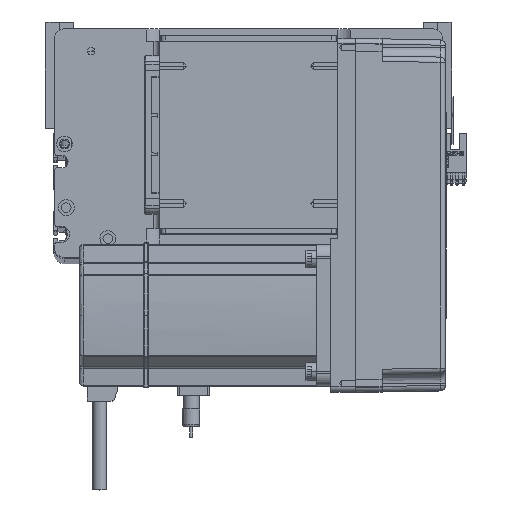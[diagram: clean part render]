
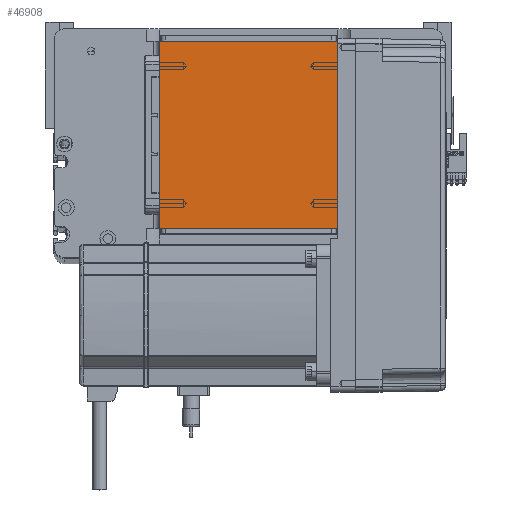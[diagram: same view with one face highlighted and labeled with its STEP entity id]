
A CAD part, top view. The second image highlights one B-rep face of the part: STEP entity #46908.
In plain terms, the highlighted planar face has unit normal (0, 0, 1).
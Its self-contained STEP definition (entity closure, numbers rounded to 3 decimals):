
#880 = VECTOR ( 'NONE', #47434, 1000. ) ;
#2087 = CARTESIAN_POINT ( 'NONE',  ( -50.5, 122., 115. ) ) ;
#4908 = DIRECTION ( 'NONE',  ( 0., -1., 0. ) ) ;
#5291 = EDGE_CURVE ( 'NONE', #12152, #8774, #38598, .T. ) ;
#6255 = ORIENTED_EDGE ( 'NONE', *, *, #5291, .T. ) ;
#6798 = PLANE ( 'NONE',  #8379 ) ;
#8379 = AXIS2_PLACEMENT_3D ( 'NONE', #19791, #48111, #44495 ) ;
#8405 = EDGE_CURVE ( 'NONE', #17040, #8585, #35131, .T. ) ;
#8585 = VERTEX_POINT ( 'NONE', #33032 ) ;
#8774 = VERTEX_POINT ( 'NONE', #2087 ) ;
#9268 = EDGE_CURVE ( 'NONE', #8585, #12152, #20641, .T. ) ;
#10025 = CARTESIAN_POINT ( 'NONE',  ( 50.5, 122., 115. ) ) ;
#10872 = VECTOR ( 'NONE', #49845, 1000. ) ;
#12152 = VERTEX_POINT ( 'NONE', #43312 ) ;
#15109 = EDGE_LOOP ( 'NONE', ( #18886, #45058, #44399, #6255 ) ) ;
#15355 = VECTOR ( 'NONE', #4908, 1000. ) ;
#17014 = CARTESIAN_POINT ( 'NONE',  ( -50.5, 122., 115. ) ) ;
#17040 = VERTEX_POINT ( 'NONE', #40948 ) ;
#18321 = DIRECTION ( 'NONE',  ( 0., 1., 0. ) ) ;
#18886 = ORIENTED_EDGE ( 'NONE', *, *, #25590, .T. ) ;
#19791 = CARTESIAN_POINT ( 'NONE',  ( 0., 0., 115. ) ) ;
#19864 = LINE ( 'NONE', #26080, #15355 ) ;
#20641 = LINE ( 'NONE', #10025, #21333 ) ;
#21333 = VECTOR ( 'NONE', #18321, 1000. ) ;
#25590 = EDGE_CURVE ( 'NONE', #8774, #17040, #19864, .T. ) ;
#26080 = CARTESIAN_POINT ( 'NONE',  ( -50.5, 122., 115. ) ) ;
#31566 = CARTESIAN_POINT ( 'NONE',  ( -50.5, 16., 115. ) ) ;
#33032 = CARTESIAN_POINT ( 'NONE',  ( 50.5, 16., 115. ) ) ;
#35131 = LINE ( 'NONE', #31566, #880 ) ;
#38598 = LINE ( 'NONE', #17014, #10872 ) ;
#39419 = FACE_OUTER_BOUND ( 'NONE', #15109, .T. ) ;
#40948 = CARTESIAN_POINT ( 'NONE',  ( -50.5, 16., 115. ) ) ;
#43312 = CARTESIAN_POINT ( 'NONE',  ( 50.5, 122., 115. ) ) ;
#44399 = ORIENTED_EDGE ( 'NONE', *, *, #9268, .T. ) ;
#44495 = DIRECTION ( 'NONE',  ( 1., 0., 0. ) ) ;
#45058 = ORIENTED_EDGE ( 'NONE', *, *, #8405, .T. ) ;
#46908 = ADVANCED_FACE ( 'NONE', ( #39419 ), #6798, .T. ) ;
#47434 = DIRECTION ( 'NONE',  ( 1., 0., 0. ) ) ;
#48111 = DIRECTION ( 'NONE',  ( 0., 0., 1. ) ) ;
#49845 = DIRECTION ( 'NONE',  ( -1., 0., 0. ) ) ;
